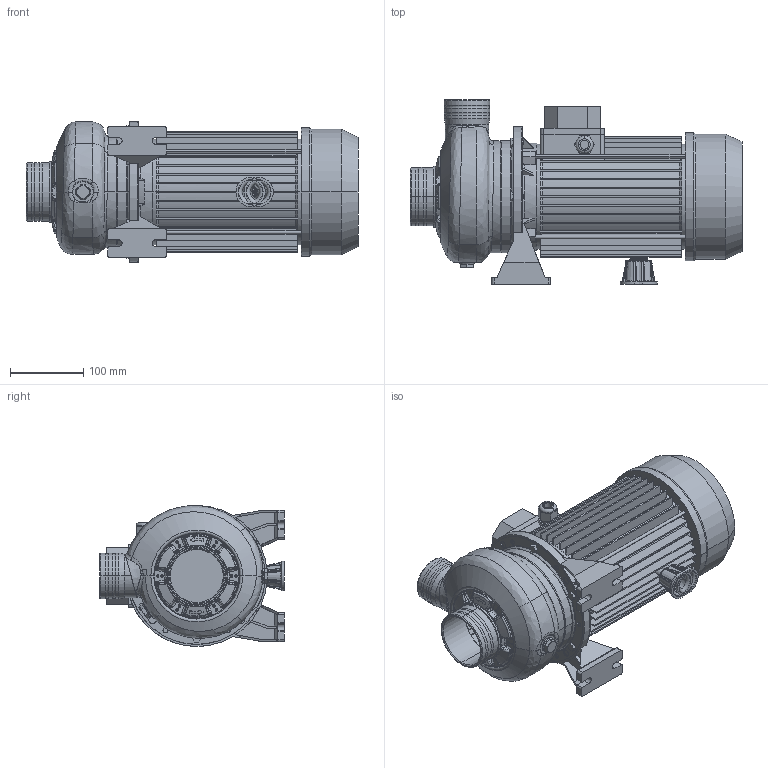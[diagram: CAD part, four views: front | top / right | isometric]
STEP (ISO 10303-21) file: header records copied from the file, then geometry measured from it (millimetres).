
FILE_DESCRIPTION((''),'2;1');
FILE_NAME('DWO_400_IE2_ASM','2011-07-06T',('Utente'),('"Ebara Pumps Europe +39.444.706811"'),'PRO/ENGINEER BY PARAMETRIC TECHNOLOGY CORPORATION, 2009360','PRO/ENGINEER BY PARAMETRIC TECHNOLOGY CORPORATION, 2009360','');
FILE_SCHEMA(('AUTOMOTIVE_DESIGN { 1 0 10303 214 1 1 1 1 }'));
Length unit declared in the file: millimetre
Products named in the file (12): MEC_90X140_IE2; 80598; 251420991; 62037; 62035; 10054; 76006; 40032; 20993_ASM; 72012; 360610016; DWO_400_IE2_ASM
Assembly tree (15 placements, depth 3):
  DWO_400_IE2_ASM
    MEC_90X140_IE2
    80598
    20993_ASM
      251420991
      62037
      62035
      10054
      76006  x2
      40032  x2
    72012  x2
    360610016  x2
Bounding box: 454.5 x 253 x 192.92 mm (x, y, z)
Volume: 3447129.2 mm3; surface area: 828311.5 mm2
Topology: 14 solids, 14 shells, 1788 faces, 4295 edges, 2584 vertices
Faces by surface type: plane 519, bspline 506, cylinder 302, torus 241, cone 174, sphere 42, extrusion 4
Entity records: 90891 total; most frequent: CARTESIAN_POINT 41374, ORIENTED_EDGE 7668, DIRECTION 6571, EDGE_CURVE 3834, PRESENTATION_STYLE_ASSIGNMENT 3831, STYLED_ITEM 3831, CURVE_STYLE 3822, AXIS2_PLACEMENT_3D 2712
